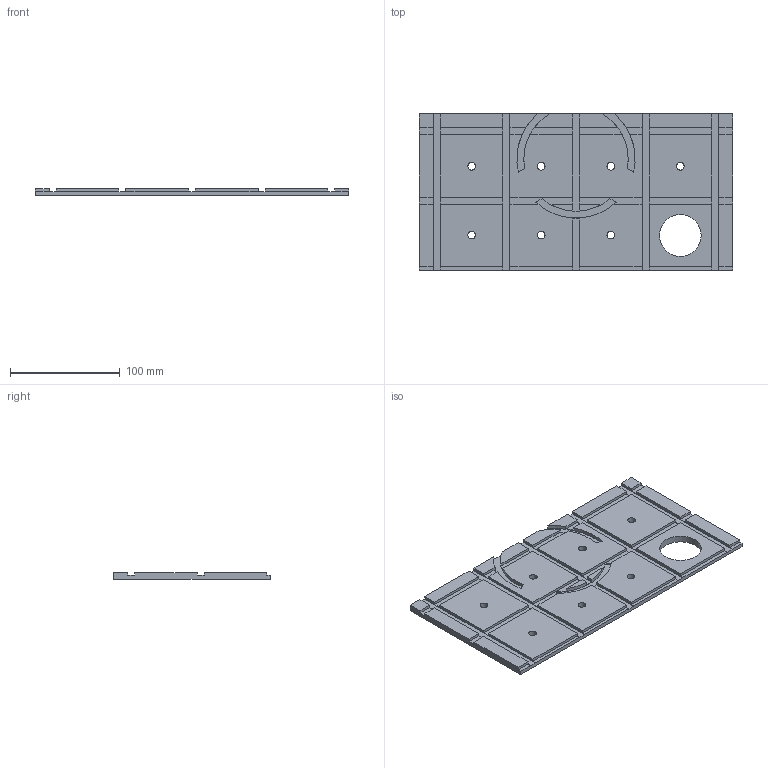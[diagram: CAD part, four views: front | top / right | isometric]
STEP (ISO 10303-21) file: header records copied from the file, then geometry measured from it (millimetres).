
FILE_DESCRIPTION((''),'2;1');
FILE_NAME('P:\Inventor Diagrams\maze parts\maze lid.stp','2012-03-06T15:36:04',('jdazai'),(''),'Autodesk Inventor 2010','Autodesk Inventor 2010','');
FILE_SCHEMA(('AUTOMOTIVE_DESIGN { 1 0 10303 214 1 1 1 1 }'));
Length unit declared in the file: inch
Products named in the file (1): maze lid
Bounding box: 285.75 x 142.88 x 6.35 mm (x, y, z)
Volume: 224067.4 mm3; surface area: 92792 mm2
Topology: 1 solids, 1 shells, 123 faces, 362 edges, 241 vertices
Faces by surface type: plane 109, cylinder 14
Full cylindrical faces by diameter (mm): 6.977 x7, 38.1 x1
Entity records: 4072 total; most frequent: CARTESIAN_POINT 719, ORIENTED_EDGE 708, DIRECTION 646, EDGE_CURVE 354, VECTOR 310, LINE 310, VERTEX_POINT 241, AXIS2_PLACEMENT_3D 168
